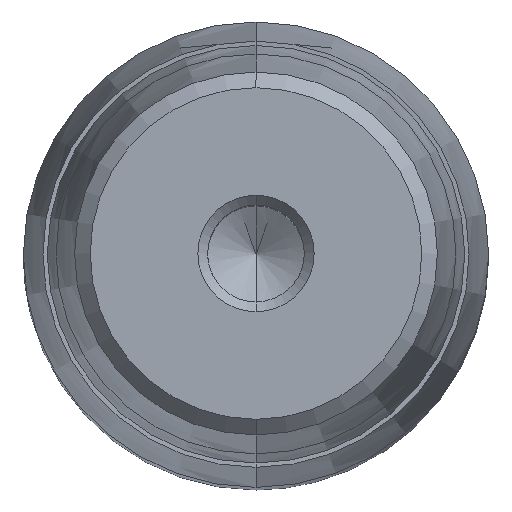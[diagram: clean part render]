
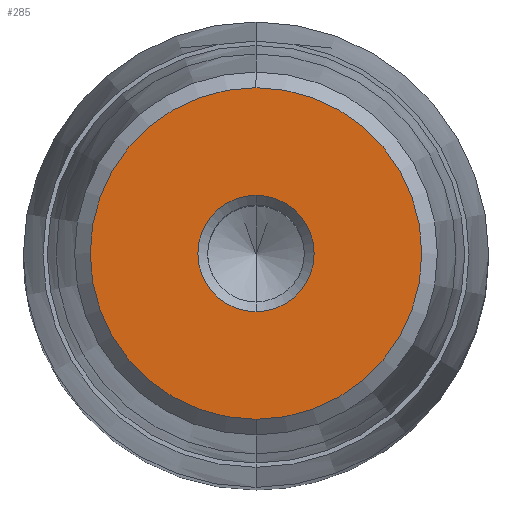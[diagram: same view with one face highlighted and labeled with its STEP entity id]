
A CAD part, top view. The second image highlights one B-rep face of the part: STEP entity #285.
In plain terms, the highlighted planar face has unit normal (0, 0, 1).
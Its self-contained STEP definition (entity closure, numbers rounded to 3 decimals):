
#164=CARTESIAN_POINT('Axis2P3D Location',(0.,0.,48.)) ;
#168=CARTESIAN_POINT('Vertex',(4.,0.,48.)) ;
#170=CARTESIAN_POINT('Vertex',(0.,-4.,48.)) ;
#173=CARTESIAN_POINT('Axis2P3D Location',(0.,0.,48.)) ;
#177=CARTESIAN_POINT('Vertex',(0.,4.,48.)) ;
#228=CARTESIAN_POINT('Axis2P3D Location',(0.,4.,48.)) ;
#233=CARTESIAN_POINT('Axis2P3D Location',(0.,0.,48.)) ;
#237=CARTESIAN_POINT('Vertex',(0.,11.4,48.)) ;
#239=CARTESIAN_POINT('Vertex',(11.4,0.,48.)) ;
#242=CARTESIAN_POINT('Axis2P3D Location',(0.,0.,48.)) ;
#246=CARTESIAN_POINT('Vertex',(-11.4,0.,48.)) ;
#249=CARTESIAN_POINT('Axis2P3D Location',(0.,0.,48.)) ;
#253=CARTESIAN_POINT('Vertex',(0.,-11.4,48.)) ;
#256=CARTESIAN_POINT('Axis2P3D Location',(0.,0.,48.)) ;
#267=CARTESIAN_POINT('Axis2P3D Location',(0.,0.,48.)) ;
#271=CARTESIAN_POINT('Vertex',(-4.,0.,48.)) ;
#274=CARTESIAN_POINT('Axis2P3D Location',(0.,0.,48.)) ;
#165=DIRECTION('Axis2P3D Direction',(0.,0.,1.)) ;
#174=DIRECTION('Axis2P3D Direction',(0.,0.,1.)) ;
#229=DIRECTION('Axis2P3D Direction',(-0.,0.,-1.)) ;
#230=DIRECTION('Axis2P3D XDirection',(0.,1.,0.)) ;
#234=DIRECTION('Axis2P3D Direction',(-0.,0.,-1.)) ;
#243=DIRECTION('Axis2P3D Direction',(-0.,0.,-1.)) ;
#250=DIRECTION('Axis2P3D Direction',(-0.,0.,-1.)) ;
#257=DIRECTION('Axis2P3D Direction',(-0.,0.,-1.)) ;
#268=DIRECTION('Axis2P3D Direction',(-0.,0.,-1.)) ;
#275=DIRECTION('Axis2P3D Direction',(-0.,0.,-1.)) ;
#166=AXIS2_PLACEMENT_3D('Circle Axis2P3D',#164,#165,$) ;
#175=AXIS2_PLACEMENT_3D('Circle Axis2P3D',#173,#174,$) ;
#231=AXIS2_PLACEMENT_3D('Plane Axis2P3D',#228,#229,#230) ;
#235=AXIS2_PLACEMENT_3D('Circle Axis2P3D',#233,#234,$) ;
#244=AXIS2_PLACEMENT_3D('Circle Axis2P3D',#242,#243,$) ;
#251=AXIS2_PLACEMENT_3D('Circle Axis2P3D',#249,#250,$) ;
#258=AXIS2_PLACEMENT_3D('Circle Axis2P3D',#256,#257,$) ;
#269=AXIS2_PLACEMENT_3D('Circle Axis2P3D',#267,#268,$) ;
#276=AXIS2_PLACEMENT_3D('Circle Axis2P3D',#274,#275,$) ;
#262=ORIENTED_EDGE('',*,*,#241,.F.) ;
#263=ORIENTED_EDGE('',*,*,#248,.F.) ;
#264=ORIENTED_EDGE('',*,*,#255,.F.) ;
#265=ORIENTED_EDGE('',*,*,#260,.F.) ;
#280=ORIENTED_EDGE('',*,*,#172,.T.) ;
#281=ORIENTED_EDGE('',*,*,#273,.T.) ;
#282=ORIENTED_EDGE('',*,*,#278,.T.) ;
#283=ORIENTED_EDGE('',*,*,#179,.T.) ;
#284=FACE_BOUND('',#279,.T.) ;
#285=ADVANCED_FACE('722-32x125x158',(#266,#284),#232,.F.) ;
#167=CIRCLE('generated circle',#166,4.) ;
#176=CIRCLE('generated circle',#175,4.) ;
#236=CIRCLE('generated circle',#235,11.4) ;
#245=CIRCLE('generated circle',#244,11.4) ;
#252=CIRCLE('generated circle',#251,11.4) ;
#259=CIRCLE('generated circle',#258,11.4) ;
#270=CIRCLE('generated circle',#269,4.) ;
#277=CIRCLE('generated circle',#276,4.) ;
#172=EDGE_CURVE('',#169,#171,#167,.F.) ;
#179=EDGE_CURVE('',#178,#169,#176,.F.) ;
#241=EDGE_CURVE('',#238,#240,#236,.T.) ;
#248=EDGE_CURVE('',#247,#238,#245,.T.) ;
#255=EDGE_CURVE('',#254,#247,#252,.T.) ;
#260=EDGE_CURVE('',#240,#254,#259,.T.) ;
#273=EDGE_CURVE('',#171,#272,#270,.T.) ;
#278=EDGE_CURVE('',#272,#178,#277,.T.) ;
#261=EDGE_LOOP('',(#262,#263,#264,#265)) ;
#279=EDGE_LOOP('',(#280,#281,#282,#283)) ;
#266=FACE_OUTER_BOUND('',#261,.T.) ;
#232=PLANE('Plane',#231) ;
#169=VERTEX_POINT('',#168) ;
#171=VERTEX_POINT('',#170) ;
#178=VERTEX_POINT('',#177) ;
#238=VERTEX_POINT('',#237) ;
#240=VERTEX_POINT('',#239) ;
#247=VERTEX_POINT('',#246) ;
#254=VERTEX_POINT('',#253) ;
#272=VERTEX_POINT('',#271) ;
